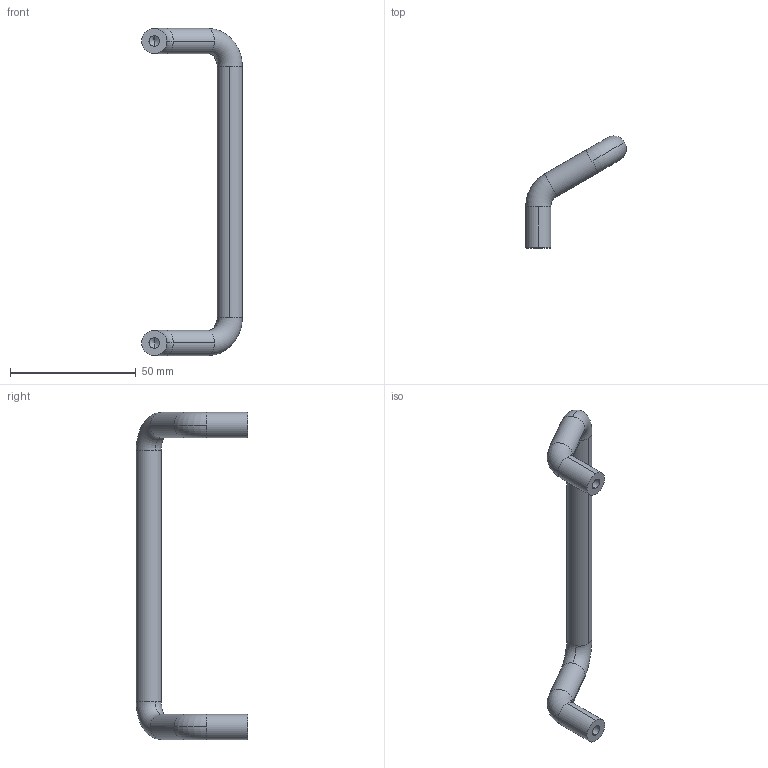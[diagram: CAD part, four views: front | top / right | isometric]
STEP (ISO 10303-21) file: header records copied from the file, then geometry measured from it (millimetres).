
FILE_DESCRIPTION (( 'STEP AP203' ), '1' );
FILE_NAME ('E07-507120.STEP', '2024-10-29T05:54:17', ( '' ), ( '' ), 'SwSTEP 2.0', 'SolidWorks 2021', '' );
FILE_SCHEMA (( 'CONFIG_CONTROL_DESIGN' ));
Length unit declared in the file: millimetre
Products named in the file (1): E07-507120
Bounding box: 40 x 44.32 x 130 mm (x, y, z)
Volume: 17107 mm3; surface area: 7496.3 mm2
Topology: 1 solids, 1 shells, 28 faces, 70 edges, 42 vertices
Faces by surface type: cylinder 14, torus 8, cone 4, plane 2
Entity records: 907 total; most frequent: DIRECTION 172, CARTESIAN_POINT 137, ORIENTED_EDGE 132, AXIS2_PLACEMENT_3D 77, EDGE_CURVE 66, CIRCLE 48, VERTEX_POINT 42, EDGE_LOOP 30
